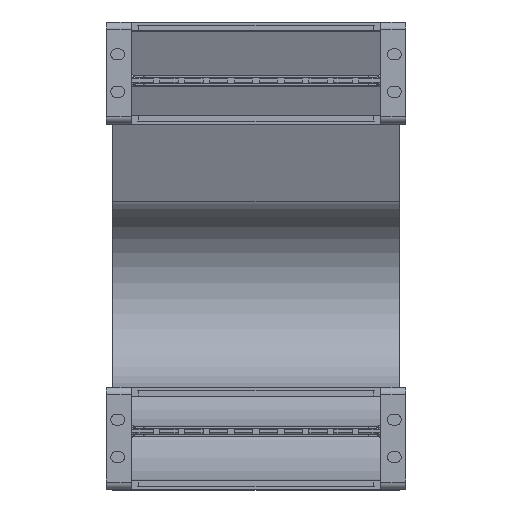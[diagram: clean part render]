
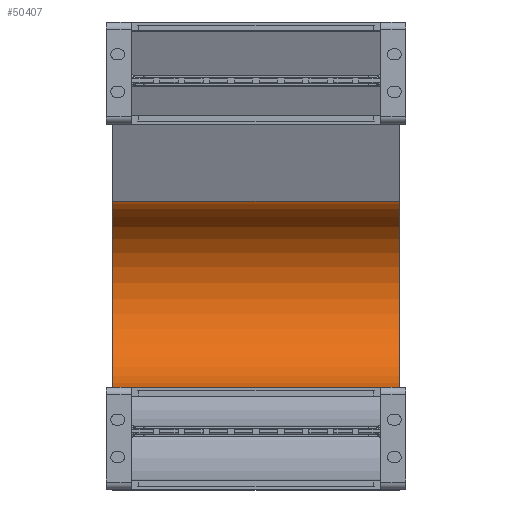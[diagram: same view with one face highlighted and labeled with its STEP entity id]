
A CAD part, top view. The second image highlights one B-rep face of the part: STEP entity #50407.
In plain terms, the highlighted cylindrical face has radius 37.5 mm (diameter 75 mm), a partial arc.
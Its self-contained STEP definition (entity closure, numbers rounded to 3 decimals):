
#49559=DIRECTION('',(-1.,0.,0.));
#49560=VECTOR('',#49559,115.);
#49561=CARTESIAN_POINT('',(57.5,41.,-400.));
#49562=LINE('',#49561,#49560);
#49573=DIRECTION('',(-1.,0.,0.));
#49574=VECTOR('',#49573,115.);
#49575=CARTESIAN_POINT('',(57.5,115.857,-403.273));
#49576=LINE('',#49575,#49574);
#49580=CARTESIAN_POINT('',(57.5,78.5,-400.));
#49581=DIRECTION('',(-1.,0.,0.));
#49582=DIRECTION('',(0.,0.996,-0.087));
#49583=AXIS2_PLACEMENT_3D('',#49580,#49581,#49582);
#49659=CARTESIAN_POINT('',(-57.5,78.5,-400.));
#49660=DIRECTION('',(-1.,0.,0.));
#49661=DIRECTION('',(0.,0.996,-0.087));
#49662=AXIS2_PLACEMENT_3D('',#49659,#49660,#49661);
#49781=CARTESIAN_POINT('',(57.5,115.857,-403.273));
#49782=CARTESIAN_POINT('',(-57.5,115.857,-403.273));
#49783=VERTEX_POINT('',#49781);
#49784=VERTEX_POINT('',#49782);
#49805=CARTESIAN_POINT('',(57.5,41.,-400.));
#49806=CARTESIAN_POINT('',(-57.5,41.,-400.));
#49807=VERTEX_POINT('',#49805);
#49808=VERTEX_POINT('',#49806);
#50393=CARTESIAN_POINT('',(1.,78.5,-400.));
#50394=DIRECTION('',(-1.,0.,0.));
#50395=DIRECTION('',(0.,-0.996,0.087));
#50396=AXIS2_PLACEMENT_3D('',#50393,#50394,#50395);
#50397=CYLINDRICAL_SURFACE('',#50396,37.5);
#50399=ORIENTED_EDGE('',*,*,#50398,.F.);
#50401=ORIENTED_EDGE('',*,*,#50400,.T.);
#50402=ORIENTED_EDGE('',*,*,#50376,.T.);
#50404=ORIENTED_EDGE('',*,*,#50403,.F.);
#50405=EDGE_LOOP('',(#50399,#50401,#50402,#50404));
#50406=FACE_OUTER_BOUND('',#50405,.F.);
#49584=CIRCLE('',#49583,37.5);
#49663=CIRCLE('',#49662,37.5);
#50376=EDGE_CURVE('',#49807,#49808,#49562,.T.);
#50398=EDGE_CURVE('',#49783,#49784,#49576,.T.);
#50400=EDGE_CURVE('',#49783,#49807,#49584,.T.);
#50403=EDGE_CURVE('',#49784,#49808,#49663,.T.);
#50407=ADVANCED_FACE('',(#50406),#50397,.F.);
